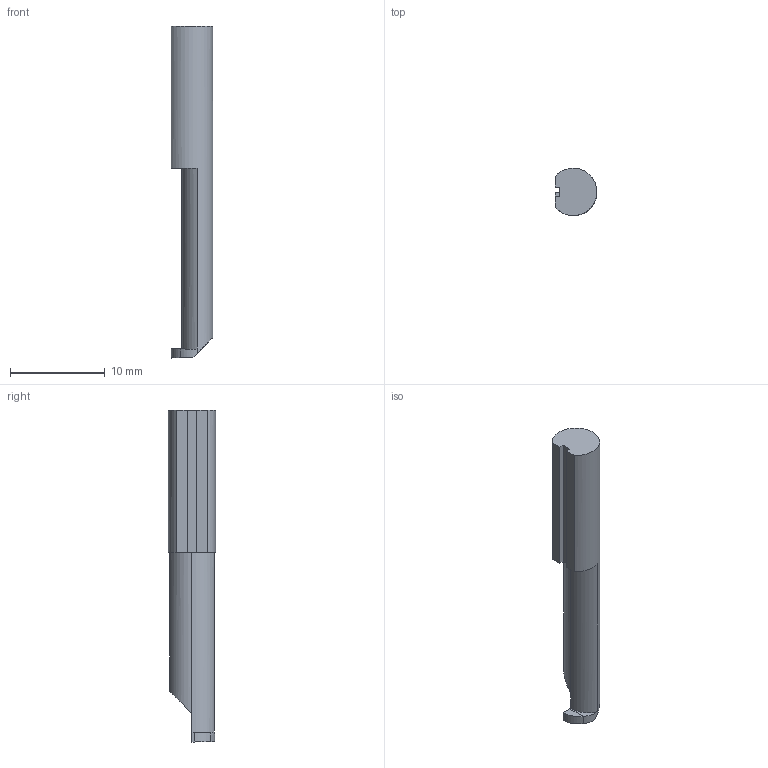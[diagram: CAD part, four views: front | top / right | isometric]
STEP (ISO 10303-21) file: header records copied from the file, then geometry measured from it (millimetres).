
FILE_DESCRIPTION(('CATIA V5 STEP Exchange'),'2;1');
FILE_NAME('I:\isr\design\admin8\users\weaam_s\6402354.L.stp','2012-01-10T09:36:52+00:00',('none'),('none'),'CATIA Version 5 Release 19 SP 7 (IN-10)','CATIA V5 STEP AP214','none');
FILE_SCHEMA(('AUTOMOTIVE_DESIGN { 1 0 10303 214 1 1 1 1 }'));
Length unit declared in the file: millimetre
Products named in the file (1): 60894115_0 Assembly PICCO R 005.0100-20
Bounding box: 4.4 x 5 x 35 mm (x, y, z)
Volume: 469.3 mm3; surface area: 517.3 mm2
Topology: 2 solids, 2 shells, 25 faces, 63 edges, 42 vertices
Faces by surface type: plane 18, cylinder 7
Entity records: 803 total; most frequent: CARTESIAN_POINT 195, ORIENTED_EDGE 126, DIRECTION 100, EDGE_CURVE 63, VECTOR 43, LINE 43, VERTEX_POINT 42, AXIS2_PLACEMENT_3D 34
